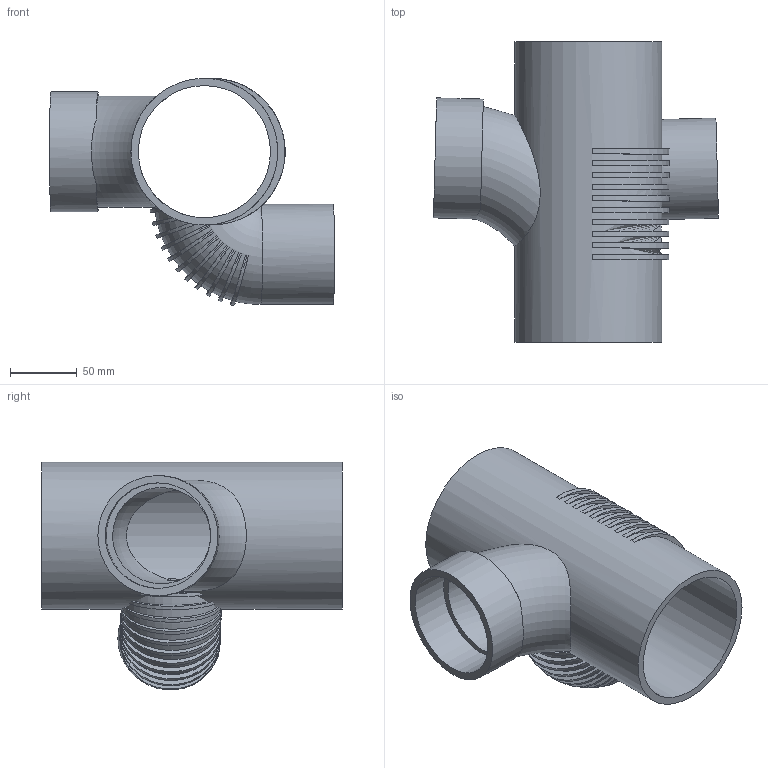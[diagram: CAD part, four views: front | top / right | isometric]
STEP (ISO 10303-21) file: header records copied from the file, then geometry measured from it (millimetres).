
FILE_DESCRIPTION(/* description */ (''),/* implementation_level */ '2;1');
FILE_NAME(/* name */ 'Z:\Geberit\Export\NewStep\SchachtabzweigMax_Ipart\stp\310871.stp',/* time_stamp */ '2014-04-03T18:12:42+02:00',/* author */ ('ML'),/* organization */ (''),/* preprocessor_version */ 'ST-DEVELOPER v15.2',/* originating_system */ 'Autodesk Inventor 2014',/* authorisation */ '');
FILE_SCHEMA (('AUTOMOTIVE_DESIGN { 1 0 10303 214 3 1 1 }'));
Length unit declared in the file: millimetre
Products named in the file (1): 310871
Bounding box: 213.46 x 225 x 170.45 mm (x, y, z)
Volume: 580482.7 mm3; surface area: 250220.5 mm2
Topology: 13 solids, 13 shells, 117 faces, 274 edges, 176 vertices
Faces by surface type: cylinder 60, plane 50, torus 7
Full cylindrical faces by diameter (mm): 67.8 x1, 75 x1, 79 x1, 90 x1, 99 x1, 110 x1
Entity records: 3713 total; most frequent: CARTESIAN_POINT 1115, DIRECTION 516, ORIENTED_EDGE 494, EDGE_CURVE 236, AXIS2_PLACEMENT_3D 231, VERTEX_POINT 160, EDGE_LOOP 151, STYLED_ITEM 119
